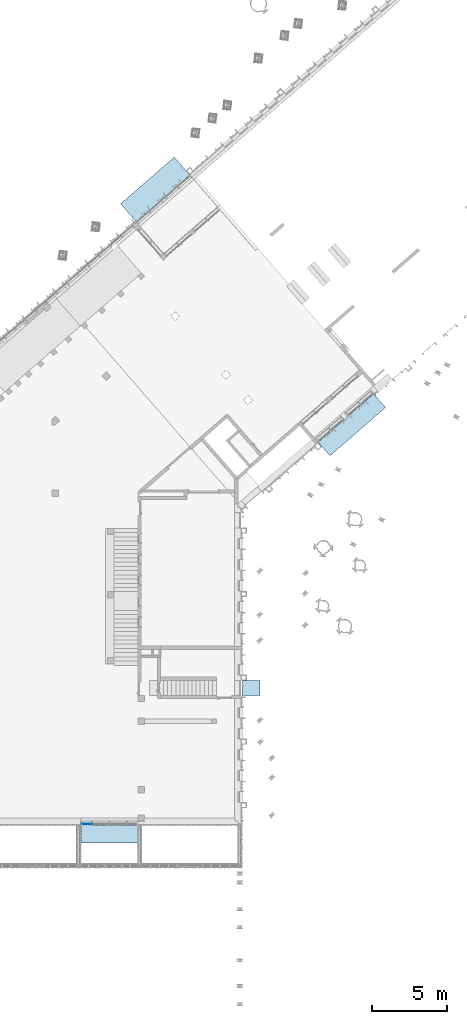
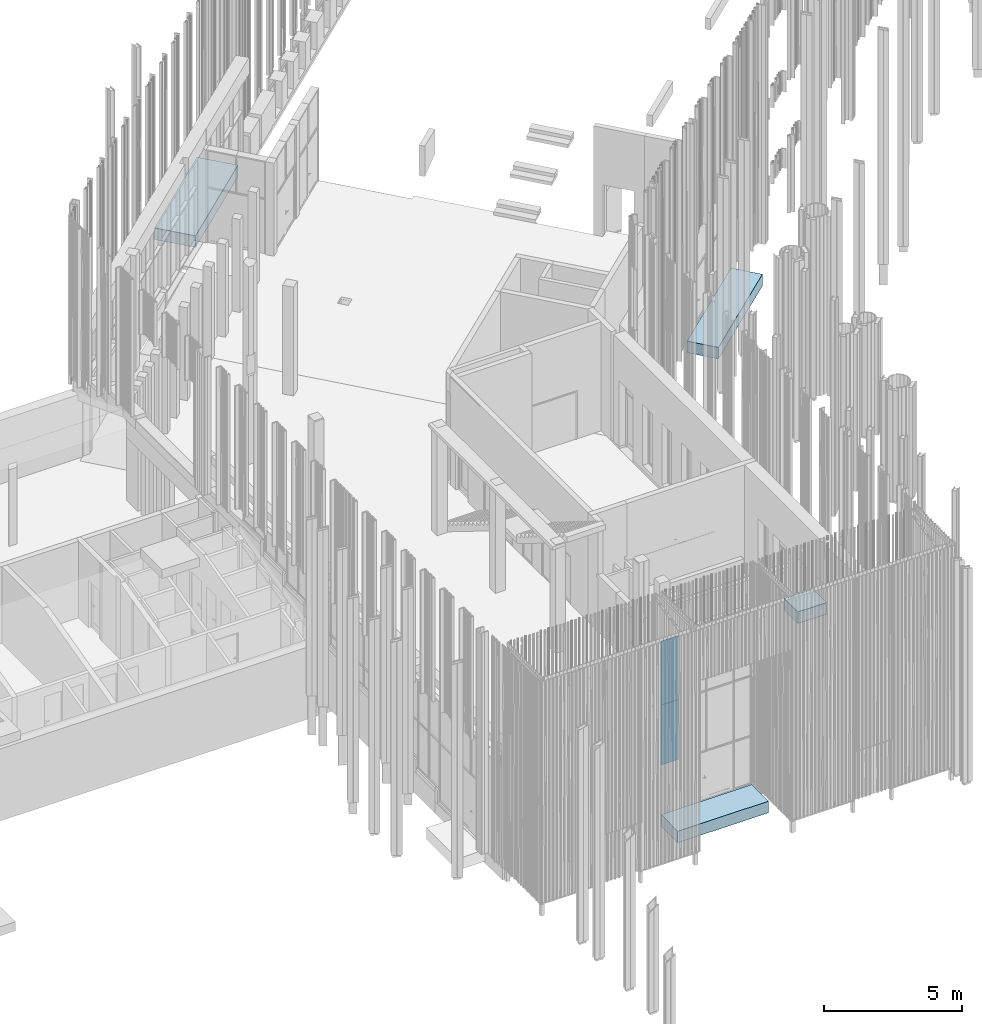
# One storey, part 6 of 390: 4 slabs, 2 plates, 1 element without a shape of its own.
"""IFC2X3 building model written with IfcOpenShell, lengths in millimetres."""

import ifcopenshell
import ifcopenshell.guid

model = None  # the IFC model being written
_history = None  # IfcOwnerHistory: only IFC2X3 demands one
_inside = {}  # id of a spatial element -> (the spatial element, [elements in it])
_under = {}  # id of a project, library or spatial element -> (it, [spatial elements below it])
_declared = {}  # id of a project -> (the project, [libraries it declares])
_typed = {}  # id of a type object -> (the type object, [elements of that type])
_made_of = {}  # id of a material, layer set ... -> (it, [elements and type objects made of it])


def new_model(schema):
    """Start an empty IFC model of exactly this schema.

    Asked for "IFC4X3", IfcOpenShell would pick the latest addendum, in which some entities
    have other attributes; the version numbers below select the first issue.
    IFC2X3 requires an IfcOwnerHistory on every rooted entity: one is made here for all.
    """
    global model, _history
    if schema == "IFC4X3":
        model = ifcopenshell.file(schema_version=(4, 3, 0, 0))
    else:
        model = ifcopenshell.file(schema=schema)
    _inside.clear()
    _under.clear()
    _declared.clear()
    _typed.clear()
    _made_of.clear()
    _history = None
    if model.schema == "IFC2X3":
        org = make("IfcOrganization", Name="unknown")
        user = make(
            "IfcPersonAndOrganization",
            ThePerson=make("IfcPerson", FamilyName="unknown"),
            TheOrganization=org,
        )
        app = make(
            "IfcApplication",
            ApplicationDeveloper=org,
            Version="unknown",
            ApplicationFullName="unknown",
            ApplicationIdentifier="unknown",
        )
        _history = make(
            "IfcOwnerHistory",
            OwningUser=user,
            OwningApplication=app,
            ChangeAction="ADDED",
            CreationDate=0,
        )
    return model


def make(cls, **values):
    """One entity of the class cls with the attributes given. An attribute that is None is left unset."""
    return model.create_entity(
        cls, **{name: value for name, value in values.items() if value is not None}
    )


def entity(cls, *values):
    """Any entity or typed value of the class cls, its attributes in the order of the schema. None: left unset."""
    e = model.create_entity(cls)
    for i, value in enumerate(values):
        if value is not None:
            e[i] = value
    return e


def rooted(cls, **values):
    """An entity with a GlobalId (a new one), such as an element, a storey or a relation."""
    return make(cls, GlobalId=ifcopenshell.guid.new(), OwnerHistory=_history, **values)


def si_unit(unit_type, name, prefix=None):
    """IfcSIUnit, for example si_unit("LENGTHUNIT", "METRE", prefix="MILLI")."""
    return make("IfcSIUnit", UnitType=unit_type, Prefix=prefix, Name=name)


def converted_unit(unit_type, name, factor, base, dimensions=None, offset=None):
    """IfcConversionBasedUnit, such as the inch: factor (a typed value) times the base unit."""
    return make(
        "IfcConversionBasedUnit"
        if offset is None
        else "IfcConversionBasedUnitWithOffset",
        ConversionOffset=offset,
        Dimensions=None
        if dimensions is None
        else entity("IfcDimensionalExponents", *dimensions),
        UnitType=unit_type,
        Name=name,
        ConversionFactor=make(
            "IfcMeasureWithUnit", ValueComponent=factor, UnitComponent=base
        ),
    )


def derived_unit(unit_type, elements):
    """IfcDerivedUnit: a product of units, each with its exponent."""
    return make(
        "IfcDerivedUnit",
        Elements=[
            make("IfcDerivedUnitElement", Unit=unit, Exponent=power)
            for unit, power in elements
        ],
        UnitType=unit_type,
    )


def money_unit(currency):
    """IfcMonetaryUnit."""
    return make("IfcMonetaryUnit", Currency=currency)


def assignment(units):
    """IfcUnitAssignment: the units of a project."""
    return None if units is None else make("IfcUnitAssignment", Units=units)


def point(xyz):
    """IfcCartesianPoint."""
    return None if xyz is None else make("IfcCartesianPoint", Coordinates=xyz)


def direction(xyz):
    """IfcDirection."""
    return None if xyz is None else make("IfcDirection", DirectionRatios=xyz)


def frame(location, z_axis=None, x_axis=None):
    """IfcAxis2Placement3D, a coordinate frame: its origin and axes. An axis left out is left unset."""
    return make(
        "IfcAxis2Placement3D",
        Location=point(location),
        Axis=direction(z_axis),
        RefDirection=direction(x_axis),
    )


def origin_with_axes():
    """The frame at (0, 0, 0) with the z axis (0, 0, 1) and the x axis (1, 0, 0) written out."""
    return frame((0.0, 0.0, 0.0), z_axis=(0.0, 0.0, 1.0), x_axis=(1.0, 0.0, 0.0))


def place(relative_to, where):
    """IfcLocalPlacement: puts the frame where relative to a parent placement (None: the world)."""
    return make(
        "IfcLocalPlacement", PlacementRelTo=relative_to, RelativePlacement=where
    )


def context(
    kind, dimensions, precision=None, world=None, true_north=None, identifier=None
):
    """IfcGeometricRepresentationContext, for example the 3D "Model" context."""
    return make(
        "IfcGeometricRepresentationContext",
        ContextIdentifier=identifier,
        ContextType=kind,
        CoordinateSpaceDimension=dimensions,
        Precision=precision,
        WorldCoordinateSystem=world,
        TrueNorth=true_north,
    )


def subcontext(parent, identifier, kind, view, scale=None):
    """IfcGeometricRepresentationSubContext, for example "Body" below "Model"."""
    return make(
        "IfcGeometricRepresentationSubContext",
        ContextIdentifier=identifier,
        ContextType=kind,
        ParentContext=parent,
        TargetScale=scale,
        TargetView=view,
    )


def project(units=None, contexts=None):
    """IfcProject with its units and contexts."""
    return rooted(
        "IfcProject",
        Name="project",
        RepresentationContexts=contexts,
        UnitsInContext=assignment(units),
    )


def spatial(cls, under=None, at=None, **own):
    """A site, building, storey or space (cls), placed at a placement, below another one or the project."""
    s = rooted(cls, ObjectPlacement=at, **own)
    if under is not None:
        _under.setdefault(under.id(), (under, []))[1].append(s)
    return s


def polyline(points):
    """IfcPolyline through the points."""
    return make("IfcPolyline", Points=[point(p) for p in points])


def outline(outer, holes=None, kind="AREA"):
    """IfcArbitraryClosedProfileDef: a profile drawn as a closed curve; with holes, ...WithVoids."""
    if holes is None:
        return make("IfcArbitraryClosedProfileDef", ProfileType=kind, OuterCurve=outer)
    return make(
        "IfcArbitraryProfileDefWithVoids",
        ProfileType=kind,
        OuterCurve=outer,
        InnerCurves=holes,
    )


def extrude(swept, where, along, depth):
    """IfcExtrudedAreaSolid: the profile swept, set in the frame where, extruded along a direction by depth."""
    return make(
        "IfcExtrudedAreaSolid",
        SweptArea=swept,
        Position=where,
        ExtrudedDirection=direction(along),
        Depth=depth,
    )


def shape(context_of_items, identifier, shape_type, items):
    """IfcShapeRepresentation: the items that make up one representation, for example the "Body"."""
    return make(
        "IfcShapeRepresentation",
        ContextOfItems=context_of_items,
        RepresentationIdentifier=identifier,
        RepresentationType=shape_type,
        Items=items,
    )


def material(Name=None, Category=None):
    """IfcMaterial."""
    return make("IfcMaterial", Name=Name, Category=Category)


def layer(
    of_material, thickness, ventilated=None, Name=None, Category=None, Priority=None
):
    """IfcMaterialLayer: one layer of a wall or slab, of a material (None: an air gap)."""
    return make(
        "IfcMaterialLayer",
        Material=of_material,
        LayerThickness=thickness,
        IsVentilated=ventilated,
        Name=Name,
        Category=Category,
        Priority=Priority,
    )


def layer_set(layers, Name=None):
    """IfcMaterialLayerSet."""
    return make("IfcMaterialLayerSet", MaterialLayers=layers, LayerSetName=Name)


def layer_usage(for_layer_set, set_direction, sense, offset, extent=None):
    """IfcMaterialLayerSetUsage: how a layer set lies in its element."""
    return make(
        "IfcMaterialLayerSetUsage",
        ForLayerSet=for_layer_set,
        LayerSetDirection=set_direction,
        DirectionSense=sense,
        OffsetFromReferenceLine=offset,
        ReferenceExtent=extent,
    )


def made_of(thing, what):
    """Note that an element or type object is made of a material, layer set ...; save() writes the relation."""
    if what is not None:
        _made_of.setdefault(what.id(), (what, []))[1].append(thing)
    return thing


def type_object(cls, material=None, **own):
    """A type object (cls), such as IfcWallType, which elements share."""
    return made_of(rooted(cls, **own), material)


def element(
    cls,
    number,
    at=None,
    inside=None,
    cuts=None,
    type_object=None,
    material=None,
    context=None,
    identifier="Body",
    shape_type=None,
    held_by="IfcProductDefinitionShape",
    body=None,
    shapes=None,
    **own,
):
    """One element of the class cls, such as IfcWall. Its Tag is "e" and its number.

    at: its placement. inside: the storey or other place that contains it. cuts: it is an
    opening in that element (IfcRelVoidsElement). A single representation is given by context,
    identifier, shape_type and body (its items); several are given by shapes. held_by: the class
    of the entity that holds the representations. save() writes the other relations.
    """
    e = rooted(cls, Tag="e%d" % number, ObjectPlacement=at, **own)
    if body is not None:
        shapes = [shape(context, identifier, shape_type, body)]
    if shapes is not None:
        e.Representation = make(held_by, Representations=shapes)
    if inside is not None:
        _inside.setdefault(inside.id(), (inside, []))[1].append(e)
    if cuts is not None:
        rooted(
            "IfcRelVoidsElement", RelatingBuildingElement=cuts, RelatedOpeningElement=e
        )
    if type_object is not None:
        _typed.setdefault(type_object.id(), (type_object, []))[1].append(e)
    return made_of(e, material)


def aggregate(whole, parts):
    """IfcRelAggregates: a whole, such as a stair, and the parts it consists of."""
    return rooted("IfcRelAggregates", RelatingObject=whole, RelatedObjects=parts)


def save(model, path):
    """Write the relations noted so far, then the file.

    IfcRelAggregates (storeys below a building ...), IfcRelContainedInSpatialStructure (elements
    in a storey), IfcRelDefinesByType, IfcRelAssociatesMaterial and IfcRelDeclares: one each for
    every whole, place, type object, material and project.
    """
    for whole, parts in _under.values():
        aggregate(whole, parts)
    for where, things in _inside.values():
        rooted(
            "IfcRelContainedInSpatialStructure",
            RelatedElements=things,
            RelatingStructure=where,
        )
    for kind, things in _typed.values():
        rooted("IfcRelDefinesByType", RelatedObjects=things, RelatingType=kind)
    for what, things in _made_of.values():
        rooted("IfcRelAssociatesMaterial", RelatedObjects=things, RelatingMaterial=what)
    for by, libraries in _declared.values():
        rooted("IfcRelDeclares", RelatingContext=by, RelatedDefinitions=libraries)
    model.write(path)


model = new_model("IFC2X3")

# Units and contexts
model_context = context("Model", 3, precision=1e-05, world=origin_with_axes(), true_north=direction((0.0, 1.0)))
body_context = subcontext(model_context, "Body", "Model", "MODEL_VIEW")
ifc_project = project(units=[si_unit("LENGTHUNIT", "METRE", prefix="MILLI"), si_unit("AREAUNIT", "SQUARE_METRE"), si_unit("VOLUMEUNIT", "CUBIC_METRE"), converted_unit("PLANEANGLEUNIT", "DEGREE", entity("IfcPlaneAngleMeasure", 0.0174532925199), si_unit("PLANEANGLEUNIT", "RADIAN"), dimensions=[0, 0, 0, 0, 0, 0, 0]), si_unit("SOLIDANGLEUNIT", "STERADIAN"), money_unit("EUR"), converted_unit("TIMEUNIT", "Year", entity("IfcTimeMeasure", 31556926.0), si_unit("TIMEUNIT", "SECOND"), dimensions=[0, 0, 1, 0, 0, 0, 0]), si_unit("MASSUNIT", "GRAM", prefix="KILO"), si_unit("THERMODYNAMICTEMPERATUREUNIT", "DEGREE_CELSIUS"), si_unit("LUMINOUSINTENSITYUNIT", "LUMEN"), si_unit("ENERGYUNIT", "JOULE", prefix="MEGA"), derived_unit("THERMALCONDUCTANCEUNIT", [(si_unit("POWERUNIT", "WATT"), 1), (si_unit("LENGTHUNIT", "METRE"), -1), (si_unit("THERMODYNAMICTEMPERATUREUNIT", "KELVIN"), -1)]), derived_unit("SPECIFICHEATCAPACITYUNIT", [(si_unit("ENERGYUNIT", "JOULE"), 1), (si_unit("MASSUNIT", "GRAM", prefix="KILO"), -1), (si_unit("THERMODYNAMICTEMPERATUREUNIT", "KELVIN"), -1)]), derived_unit("MASSDENSITYUNIT", [(si_unit("MASSUNIT", "GRAM", prefix="KILO"), 1), (si_unit("VOLUMEUNIT", "CUBIC_METRE"), -1)])], contexts=[model_context])

# Site, building, storey
site_placement = place(None, origin_with_axes())
site = spatial("IfcSite", under=ifc_project, at=site_placement, Name="Site", CompositionType="ELEMENT")
building_placement = place(site_placement, origin_with_axes())
building = spatial("IfcBuilding", under=site, at=building_placement, Name="Building", CompositionType="ELEMENT")
storey_placement = place(building_placement, origin_with_axes())
storey = spatial("IfcBuildingStorey", under=building, at=storey_placement, Name="1 korrus", CompositionType="ELEMENT", Elevation=0.0)

# Slabs
ifc_material_1 = material(Name="Teras - Roostevaba")
ifc_layer_1 = layer(ifc_material_1, 30.0, ventilated="UNKNOWN")
ifc_material_2 = material(Name="Õhkvahe")
ifc_layer_2 = layer(ifc_material_2, 8.0, ventilated="UNKNOWN")
ifc_material_3 = material(Name="Betoon")
ifc_layer_3 = layer(ifc_material_3, 120.0, ventilated="UNKNOWN")
ifc_material_4 = material(Name="Membraan - Veekindel")
ifc_layer_4 = layer(ifc_material_4, 1.0, ventilated="UNKNOWN")
ifc_material_5 = material(Name="Soojustus - Plastik Kõva")
ifc_layer_5 = layer(ifc_material_5, 100.0, ventilated="UNKNOWN")
ifc_layer_6 = layer(ifc_material_4, 1.0, ventilated="UNKNOWN")
ifc_material_6 = material(Name="Liiv")
ifc_layer_7 = layer(ifc_material_6, 50.0, ventilated="UNKNOWN")
ifc_layer_8 = layer(ifc_material_4, 1.0, ventilated="UNKNOWN")
ifc_material_7 = material(Name="Killustik")
ifc_layer_9 = layer(ifc_material_7, 200.0, ventilated="UNKNOWN")
ifc_layer_set = layer_set([ifc_layer_1, ifc_layer_2, ifc_layer_3, ifc_layer_4, ifc_layer_5, ifc_layer_6, ifc_layer_7, ifc_layer_8, ifc_layer_9], Name="PP-03")
ifc_layer_usage_1 = layer_usage(ifc_layer_set, "AXIS3", "NEGATIVE", 511.0)
slab_type = type_object("IfcSlabType", Name="PP-03", PredefinedType="FLOOR")
slab_1_placement = place(storey_placement, frame((147677.405178, 73153.0279547, -531.017742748), z_axis=(0.0, 0.0, 1.0), x_axis=(-0.754709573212, -0.656059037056, 0.0)))
element("IfcSlab", 1, at=slab_1_placement, inside=storey, type_object=slab_type, material=ifc_layer_usage_1, Name="PP-03", PredefinedType="FLOOR", context=body_context, shape_type="SweptSolid", body=[
    extrude(outline(polyline([(3780.00000019, -2.23359048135e-06), (3780.00074184, 1200.04166371), (-1099.99999929, 1200.04171453), (-1099.98051917, 4.85814722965e-05), (3780.00000019, -2.23359048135e-06)])), frame((0.0, 0.0, 0.0), z_axis=(0.0, 0.00833304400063, 0.999965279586), x_axis=(1.0, 0.0, 0.0)), (0.0, -0.00833304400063, 0.999965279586), 511.017742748),
])
ifc_layer_usage_2 = layer_usage(ifc_layer_set, "AXIS3", "NEGATIVE", 511.0)
slab_2_placement = place(storey_placement, frame((132758.303923, 85293.0472657, -531.010365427), z_axis=(0.0, 0.0, 1.0), x_axis=(0.754709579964, 0.656059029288, 0.0)))
element("IfcSlab", 2, at=slab_2_placement, inside=storey, type_object=slab_type, material=ifc_layer_usage_2, Name="PP-03", PredefinedType="FLOOR", context=body_context, shape_type="SweptSolid", body=[
    extrude(outline(polyline([(4720.00092177, 0.0), (4720.00435066, 1570.03184722), (0.545852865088, 1570.03184681), (0.0, 0.0), (4720.00092177, 0.0)])), frame((0.0, 0.0, 0.0), z_axis=(0.0, 0.00636929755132, 0.999979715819), x_axis=(1.0, 0.0, 0.0)), (0.0, -0.00636929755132, 0.999979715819), 511.010365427),
])
ifc_layer_usage_3 = layer_usage(ifc_layer_set, "AXIS3", "NEGATIVE", 511.0)
slab_3_placement = place(storey_placement, frame((132880.000002, 45309.9999498, -531.017742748), z_axis=(0.0, 0.0, 1.0), x_axis=(-1.0, -1.04125976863e-08, 0.0)))
element("IfcSlab", 3, at=slab_3_placement, inside=storey, type_object=slab_type, material=ifc_layer_usage_3, Name="PP-03", PredefinedType="FLOOR", context=body_context, shape_type="SweptSolid", body=[
    extrude(outline(polyline([(3780.00000019, -2.23356916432e-06), (3780.00074184, 1200.04166371), (7.0903638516e-07, 1200.04170307), (0.0, 0.0), (3780.00000019, -2.23356916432e-06)])), frame((0.0, 0.0, 0.0), z_axis=(0.0, 0.00833304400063, 0.999965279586), x_axis=(1.0, 0.0, 0.0)), (0.0, -0.00833304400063, 0.999965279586), 511.017742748),
])
ifc_layer_usage_4 = layer_usage(ifc_layer_set, "AXIS3", "NEGATIVE", 511.0)
slab_4_placement = place(storey_placement, frame((139763.999998, 54886.8244389, -531.017742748), z_axis=(0.0, 0.0, 1.0), x_axis=(-4.77351827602e-10, -1.0, 0.0)))
element("IfcSlab", 4, at=slab_4_placement, inside=storey, type_object=slab_type, material=ifc_layer_usage_4, Name="PP-03", PredefinedType="FLOOR", context=body_context, shape_type="SweptSolid", body=[
    extrude(outline(polyline([(996.82504972, 0.0), (996.825279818, 1200.0414748), (0.000230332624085, 1200.04166594), (0.0, 0.0), (996.82504972, 0.0)])), frame((0.0, 0.0, 0.0), z_axis=(0.0, 0.00833304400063, 0.999965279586), x_axis=(1.0, 0.0, 0.0)), (0.0, -0.00833304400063, 0.999965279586), 511.017742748),
])

# Curtain wall, plates
curtain_wall_type = type_object("IfcCurtainWallType", Name="KLF-13", PredefinedType="NOTDEFINED")
curtain_wall_placement = place(storey_placement, frame((129470.000002, 45359.9999163, 0.0), z_axis=(0.0, 0.0, 1.0), x_axis=(1.0, 0.0, 0.0)))
curtain_wall = element("IfcCurtainWall", 5, at=curtain_wall_placement, inside=storey, type_object=curtain_wall_type, Name="Klaasfassaad")
ifc_material_8 = material(Name="Klaas")
plate_type = type_object("IfcPlateType", Name="KLF-i paneel", PredefinedType="CURTAIN_PANEL")
plate_1_placement = place(curtain_wall_placement, frame((0.0, 0.0, 3450.0), z_axis=(0.0, 0.0, 1.0), x_axis=(-1.0, -9.82172661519e-09, 0.0)))
plate_1 = element("IfcPlate", 6, at=plate_1_placement, type_object=plate_type, material=ifc_material_8, Name="Klaas", context=body_context, shape_type="SweptSolid", body=[
    extrude(outline(polyline([(-370.000005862, -1325.0), (349.999980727, -1325.0), (349.999980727, 1325.0), (-370.000005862, 1325.0), (-370.000005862, -1325.0)])), frame((0.0, -9.99999980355, 0.0), z_axis=(0.0, 1.0, 0.0), x_axis=(1.0, 0.0, 0.0)), (0.0, 0.0, 1.0), 20.0000070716),
])
plate_2_placement = place(curtain_wall_placement, frame((0.0, 0.0, 6194.99998063), z_axis=(0.0, 0.0, 1.0), x_axis=(-1.0, -9.82172661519e-09, 0.0)))
plate_2 = element("IfcPlate", 7, at=plate_2_placement, type_object=plate_type, material=ifc_material_8, Name="Klaas", context=body_context, shape_type="SweptSolid", body=[
    extrude(outline(polyline([(-369.999999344, -1399.99998865), (350.00000812, -1399.99998865), (350.00000812, 1419.99998063), (-369.999999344, 1419.99998063), (-369.999999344, -1399.99998865)])), frame((0.0, -9.99999980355, 0.0), z_axis=(0.0, 1.0, 0.0), x_axis=(1.0, 0.0, 0.0)), (0.0, 0.0, 1.0), 20.0000070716),
])
aggregate(curtain_wall, [plate_1, plate_2])

save(model, "model.ifc")
